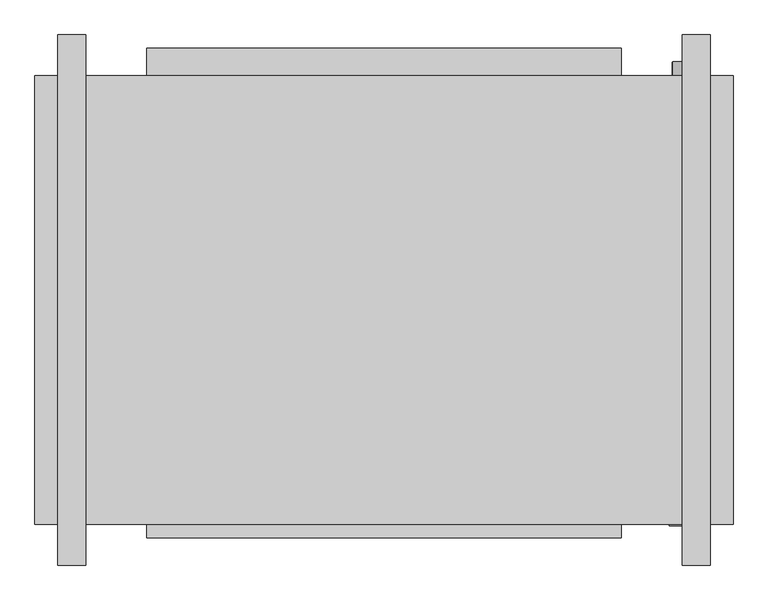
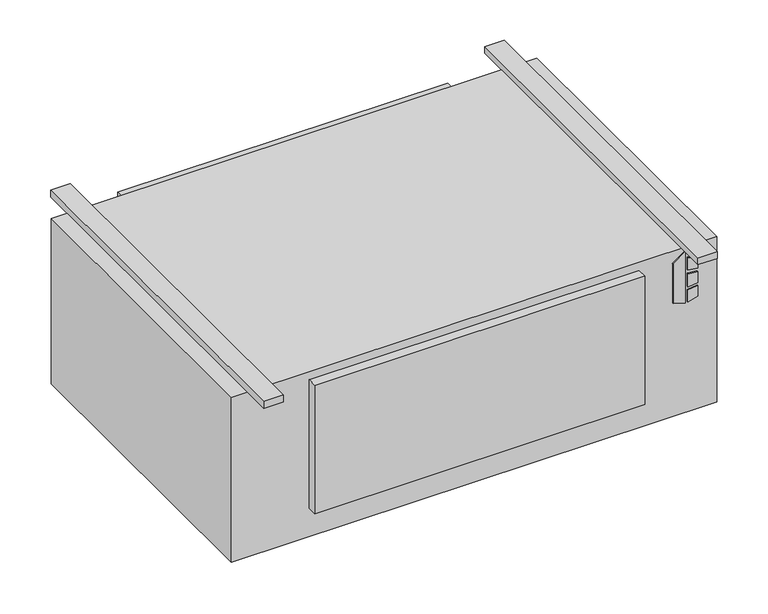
"""IFC4 building model written with IfcOpenShell, lengths in millimetres: proxy geometry, Concealed_High_Capacity_Horizontal_Cabinet_Fan_Coil_Unit_-_HXY_-_IEC_-_4-Pipe_RH_2022 : Size 14 - 277v/60Hz/1Ph - 6/2 Coil."""

from ifc_helpers import new_model, si_unit, point, frame, frame_2d, origin, origin_with_axes, place, context, project, spatial, polyline, circle_curve, trimmed, segment, composite_curve, outline, extrude, source, transform, mapped, element, save


def mechanical_equipment_d192ed12(model_context):
    return source(origin(), model_context, "Body", "SweptSolid", [
        extrude(outline(polyline([(-142.4519297, 671.5868862), (-152.4, 703.7602728), (-10.2290756, 703.7602728), (-33.2510817, 671.5868862), (-142.4519297, 671.5868862)])), frame((0.0, -649.2875, 0.0), z_axis=(0.0, 1.0, 0.0), x_axis=(0.0, 0.0, 1.0)), (0.0, 0.0, 1.0), 3.175),
        extrude(outline(polyline([(-63.4526443, 710.5186058), (-66.6550368, 736.6), (-37.4261958, 736.6), (-29.3617807, 710.5186058), (-63.4526443, 710.5186058)])), frame((0.0, -649.2875, 0.0), z_axis=(0.0, 1.0, 0.0), x_axis=(0.0, 0.0, 1.0)), (0.0, 0.0, 1.0), 3.175),
        extrude(outline(polyline([(-115.3161712, 736.6), (-118.9816721, 710.5186058), (-152.4, 710.5186058), (-143.7657628, 736.6), (-115.3161712, 736.6)])), frame((0.0, -649.2875, 0.0), z_axis=(0.0, 1.0, 0.0), x_axis=(0.0, 0.0, 1.0)), (0.0, 0.0, 1.0), 3.175),
        extrude(outline(polyline([(-76.0010097, 736.6), (-73.7191834, 710.5186058), (-109.6567319, 710.5186058), (-106.9154669, 736.6), (-76.0010097, 736.6)])), frame((0.0, -649.2875, 0.0), z_axis=(0.0, 1.0, 0.0), x_axis=(0.0, 0.0, 1.0)), (0.0, 0.0, 1.0), 3.175),
        extrude(outline(composite_curve([segment(trimmed(circle_curve(frame_2d((-406.4, 685.8)), 9.525), [point((-406.4, 676.275))], [point((-406.4, 695.325))], False, "CARTESIAN"), True, "CONTINUOUS"), segment(trimmed(circle_curve(frame_2d((-406.4, 685.8)), 9.525), [point((-406.4, 695.325))], [point((-406.4, 676.275))], False, "CARTESIAN"), True, "CONTINUOUS")], self_intersect=False)), frame((0.0, 169.8625, 0.0), z_axis=(0.0, 1.0, 0.0), x_axis=(0.0, 0.0, 1.0)), (0.0, 0.0, 1.0), 25.4),
        extrude(outline(composite_curve([segment(trimmed(circle_curve(frame_2d((-330.2, 685.8)), 7.9375), [point((-330.2, 677.8625))], [point((-330.2, 693.7375))], False, "CARTESIAN"), True, "CONTINUOUS"), segment(trimmed(circle_curve(frame_2d((-330.2, 685.8)), 7.9375), [point((-330.2, 693.7375))], [point((-330.2, 677.8625))], False, "CARTESIAN"), True, "CONTINUOUS")], self_intersect=False)), frame((0.0, 169.8625, 0.0), z_axis=(0.0, 1.0, 0.0), x_axis=(0.0, 0.0, 1.0)), (0.0, 0.0, 1.0), 25.4),
        extrude(outline(composite_curve([segment(trimmed(circle_curve(frame_2d((-254.0, 685.8)), 7.9375), [point((-254.0, 677.8625))], [point((-254.0, 693.7375))], False, "CARTESIAN"), True, "CONTINUOUS"), segment(trimmed(circle_curve(frame_2d((-254.0, 685.8)), 7.9375), [point((-254.0, 693.7375))], [point((-254.0, 677.8625))], False, "CARTESIAN"), True, "CONTINUOUS")], self_intersect=False)), frame((0.0, 169.8625, 0.0), z_axis=(0.0, 1.0, 0.0), x_axis=(0.0, 0.0, 1.0)), (0.0, 0.0, 1.0), 25.4),
        extrude(outline(composite_curve([segment(trimmed(circle_curve(frame_2d((-177.8, 685.8)), 7.9375), [point((-177.8, 677.8625))], [point((-177.8, 693.7375))], False, "CARTESIAN"), True, "CONTINUOUS"), segment(trimmed(circle_curve(frame_2d((-177.8, 685.8)), 7.9375), [point((-177.8, 693.7375))], [point((-177.8, 677.8625))], False, "CARTESIAN"), True, "CONTINUOUS")], self_intersect=False)), frame((0.0, 169.8625, 0.0), z_axis=(0.0, 1.0, 0.0), x_axis=(0.0, 0.0, 1.0)), (0.0, 0.0, 1.0), 25.4),
        extrude(outline(composite_curve([segment(trimmed(circle_curve(frame_2d((-101.6, 685.8)), 7.9375), [point((-101.6, 677.8625))], [point((-101.6, 693.7375))], False, "CARTESIAN"), True, "CONTINUOUS"), segment(trimmed(circle_curve(frame_2d((-101.6, 685.8)), 7.9375), [point((-101.6, 693.7375))], [point((-101.6, 677.8625))], False, "CARTESIAN"), True, "CONTINUOUS")], self_intersect=False)), frame((0.0, 169.8625, 0.0), z_axis=(0.0, 1.0, 0.0), x_axis=(0.0, 0.0, 1.0)), (0.0, 0.0, 1.0), 25.4),
        extrude(outline(polyline([(787.4, 169.8625), (787.4, -646.1125), (-482.6, -646.1125), (-482.6, 169.8625), (787.4, 169.8625)])), frame((0.0, 0.0, -457.2), z_axis=(0.0, 0.0, 1.0), x_axis=(1.0, 0.0, 0.0)), (0.0, 0.0, 1.0), 457.2),
        extrude(outline(polyline([(-279.4, 220.6625), (584.2, 220.6625), (584.2, 169.8625), (-279.4, 169.8625), (-279.4, 220.6625)])), frame((0.0, 0.0, -377.825), z_axis=(0.0, 0.0, 1.0), x_axis=(1.0, 0.0, 0.0)), (0.0, 0.0, 1.0), 349.25),
        extrude(outline(polyline([(-390.525, 244.475), (-390.525, -720.725), (-441.325, -720.725), (-441.325, 244.475), (-390.525, 244.475)])), origin_with_axes(), (0.0, 0.0, 1.0), 19.05),
        extrude(outline(polyline([(746.125, 244.475), (746.125, -720.725), (695.325, -720.725), (695.325, 244.475), (746.125, 244.475)])), origin_with_axes(), (0.0, 0.0, 1.0), 19.05),
        extrude(outline(polyline([(584.2, -671.5125), (-279.4, -671.5125), (-279.4, -646.1125), (584.2, -646.1125), (584.2, -671.5125)])), frame((0.0, 0.0, -377.825), z_axis=(0.0, 0.0, 1.0), x_axis=(1.0, 0.0, 0.0)), (0.0, 0.0, 1.0), 355.6),
    ])


if __name__ == "__main__":
    model = new_model("IFC4")
    model_context = context("Model", 3, world=origin())
    ifc_project = project(units=[si_unit("LENGTHUNIT", "METRE", prefix="MILLI")], contexts=[model_context])
    site = spatial("IfcSite", under=ifc_project)
    building = spatial("IfcBuilding", under=site)
    placement = place(None, origin())
    mechanical_equipment_shape = mechanical_equipment_d192ed12(model_context)
    element("IfcBuildingElementProxy", 1, Name="Concealed_High_Capacity_Horizontal_Cabinet_Fan_Coil_Unit_-_HXY_-_IEC_-_4-Pipe_RH_2022 : Size 14 - 277v/60Hz/1Ph - 6/2 Coil", ObjectType="Concealed_High_Capacity_Horizontal_Cabinet_Fan_Coil_Unit_-_HXY_-_IEC_-_4-Pipe_RH_2022 : Size 14 - 277v/60Hz/1Ph - 6/2 Coil", at=placement, inside=building, context=model_context, shape_type="MappedRepresentation", body=[
        mapped(mechanical_equipment_shape, transform((0.0, 0.0, 0.0), x_axis=(1.0, 0.0, 0.0), y_axis=(0.0, 1.0, 0.0), z_axis=(0.0, 0.0, 1.0))),
    ])
    save(model, "model.ifc")
